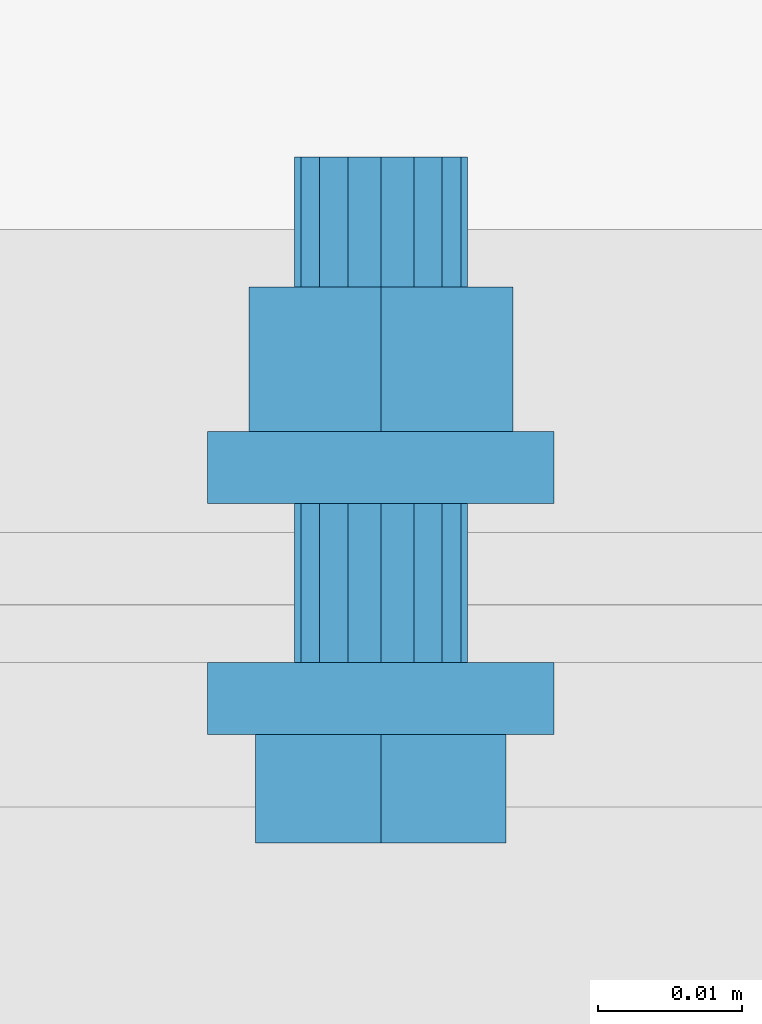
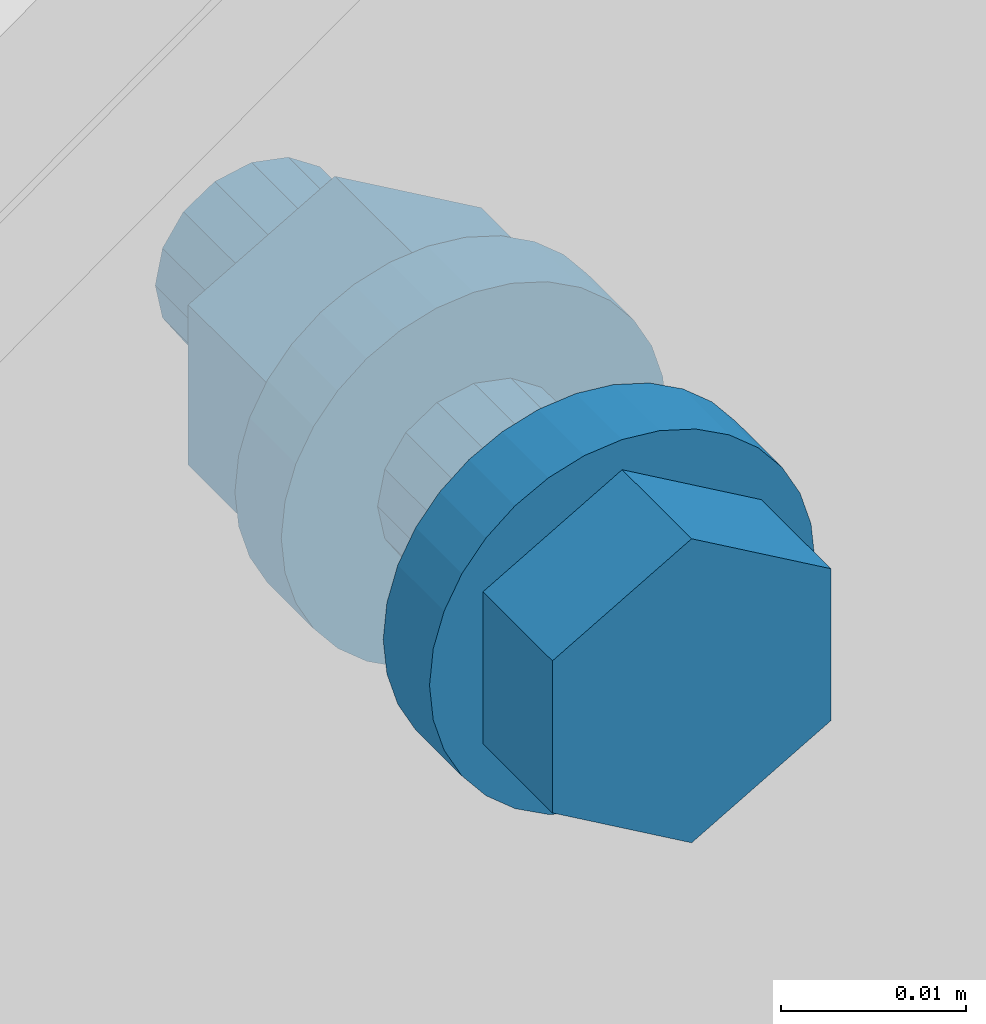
# One storey, part 40 of 116: 1 mechanical fastener.
"""IFC2X3 building model written with IfcOpenShell, lengths in millimetres."""

from ifc_helpers import new_model, entity, si_unit, converted_unit, origin_with_axes, place, context, project, spatial, faceted_brep, element, save


model = new_model("IFC2X3")

# Units and contexts
model_context = context("Model", 3, precision=1e-09, world=origin_with_axes())
ifc_project = project(units=[si_unit("LENGTHUNIT", "METRE", prefix="MILLI"), si_unit("AREAUNIT", "SQUARE_METRE"), si_unit("VOLUMEUNIT", "CUBIC_METRE"), converted_unit("PLANEANGLEUNIT", "DEGREE", entity("IfcPlaneAngleMeasure", 0.01745329), si_unit("PLANEANGLEUNIT", "RADIAN"), dimensions=[0, 0, 0, 0, 0, 0, 0])], contexts=[model_context])

# Site, building, storey
site_placement = place(None, origin_with_axes())
site = spatial("IfcSite", under=ifc_project, at=site_placement, Name="Site", CompositionType="ELEMENT")
building_placement = place(site_placement, origin_with_axes())
building = spatial("IfcBuilding", under=site, at=building_placement, Name="Struktur 1", CompositionType="ELEMENT")
storey_placement = place(building_placement, origin_with_axes())
storey = spatial("IfcBuildingStorey", under=building, at=storey_placement, Name="Default Storey", CompositionType="ELEMENT", Elevation=0.0)

# Mechanical fastener
mechanical_fastener_placement = place(None, origin_with_axes())
element("IfcMechanicalFastener", 1, at=mechanical_fastener_placement, inside=storey, ObjectType="-", NominalDiameter=12.0, NominalLength=40.0, context=model_context, shape_type="Brep", body=[
    faceted_brep([(58705.049134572, 9069.858883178, -378.0), (58705.049134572, 9072.358883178, -378.0), (58705.279711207, 9072.358883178, -380.341083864), (58705.279711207, 9069.858883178, -380.341083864), (58705.962580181, 9072.358883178, -382.592201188), (58705.962580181, 9069.858883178, -382.592201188), (58707.071499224, 9072.358883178, -384.666842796), (58707.071499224, 9069.858883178, -384.666842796), (58708.563853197, 9072.358883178, -386.485281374), (58708.563853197, 9069.858883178, -386.485281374), (58710.382291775, 9072.358883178, -387.977635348), (58710.382291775, 9069.858883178, -387.977635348), (58712.456933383, 9072.358883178, -389.08655439), (58712.456933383, 9069.858883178, -389.08655439), (58714.708050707, 9072.358883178, -389.769423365), (58714.708050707, 9069.858883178, -389.769423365), (58717.049134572, 9072.358883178, -390.0), (58717.049134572, 9069.858883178, -390.0), (58719.390218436, 9072.358883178, -389.769423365), (58719.390218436, 9069.858883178, -389.769423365), (58721.64133576, 9072.358883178, -389.08655439), (58721.64133576, 9069.858883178, -389.08655439), (58723.715977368, 9072.358883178, -387.977635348), (58723.715977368, 9069.858883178, -387.977635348), (58725.534415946, 9072.358883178, -386.485281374), (58725.534415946, 9069.858883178, -386.485281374), (58727.026769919, 9072.358883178, -384.666842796), (58727.026769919, 9069.858883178, -384.666842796), (58728.135688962, 9072.358883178, -382.592201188), (58728.135688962, 9069.858883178, -382.592201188), (58728.818557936, 9072.358883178, -380.341083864), (58728.818557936, 9069.858883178, -380.341083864), (58729.049134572, 9072.358883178, -378.0), (58729.049134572, 9069.858883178, -378.0), (58728.818557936, 9072.358883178, -375.658916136), (58728.818557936, 9069.858883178, -375.658916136), (58728.135688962, 9072.358883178, -373.407798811), (58728.135688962, 9069.858883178, -373.407798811), (58727.026769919, 9072.358883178, -371.333157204), (58727.026769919, 9069.858883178, -371.333157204), (58725.534415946, 9072.358883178, -369.514718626), (58725.534415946, 9069.858883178, -369.514718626), (58723.715977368, 9072.358883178, -368.022364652), (58723.715977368, 9069.858883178, -368.022364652), (58721.64133576, 9072.358883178, -366.91344561), (58721.64133576, 9069.858883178, -366.91344561), (58719.390218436, 9072.358883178, -366.230576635), (58719.390218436, 9069.858883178, -366.230576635), (58717.049134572, 9072.358883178, -366.0), (58717.049134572, 9069.858883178, -366.0), (58714.708050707, 9072.358883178, -366.230576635), (58714.708050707, 9069.858883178, -366.230576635), (58712.456933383, 9072.358883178, -366.91344561), (58712.456933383, 9069.858883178, -366.91344561), (58710.382291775, 9072.358883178, -368.022364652), (58710.382291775, 9069.858883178, -368.022364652), (58708.563853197, 9072.358883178, -369.514718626), (58708.563853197, 9069.858883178, -369.514718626), (58707.071499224, 9072.358883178, -371.333157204), (58707.071499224, 9069.858883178, -371.333157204), (58705.962580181, 9072.358883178, -373.407798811), (58705.962580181, 9069.858883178, -373.407798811), (58705.279711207, 9072.358883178, -375.658916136), (58705.279711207, 9069.858883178, -375.658916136)], [[[0, 1, 2, 3]], [[3, 2, 4, 5]], [[5, 4, 6, 7]], [[7, 6, 8, 9]], [[9, 8, 10, 11]], [[11, 10, 12, 13]], [[13, 12, 14, 15]], [[15, 14, 16, 17]], [[17, 16, 18, 19]], [[19, 18, 20, 21]], [[21, 20, 22, 23]], [[23, 22, 24, 25]], [[25, 24, 26, 27]], [[27, 26, 28, 29]], [[29, 28, 30, 31]], [[31, 30, 32, 33]], [[33, 32, 34, 35]], [[35, 34, 36, 37]], [[37, 36, 38, 39]], [[39, 38, 40, 41]], [[41, 40, 42, 43]], [[43, 42, 44, 45]], [[45, 44, 46, 47]], [[47, 46, 48, 49]], [[49, 48, 50, 51]], [[51, 50, 52, 53]], [[53, 52, 54, 55]], [[55, 54, 56, 57]], [[57, 56, 58, 59]], [[59, 58, 60, 61]], [[61, 60, 62, 63]], [[63, 62, 1, 0]], [[0, 3, 5, 7, 9, 11, 13, 15, 17, 19, 21, 23, 25, 27, 29, 31, 33, 35, 37, 39, 41, 43, 45, 47, 49, 51, 53, 55, 57, 59, 61, 63]], [[1, 62, 60, 58, 56, 54, 52, 50, 48, 46, 44, 42, 40, 38, 36, 34, 32, 30, 28, 26, 24, 22, 20, 18, 16, 14, 12, 10, 8, 6, 4, 2]]]),
    faceted_brep([(58705.049134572, 9067.358883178, -378.0), (58705.049134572, 9069.858883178, -378.0), (58705.279711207, 9069.858883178, -380.341083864), (58705.279711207, 9067.358883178, -380.341083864), (58705.962580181, 9069.858883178, -382.592201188), (58705.962580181, 9067.358883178, -382.592201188), (58707.071499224, 9069.858883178, -384.666842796), (58707.071499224, 9067.358883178, -384.666842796), (58708.563853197, 9069.858883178, -386.485281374), (58708.563853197, 9067.358883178, -386.485281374), (58710.382291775, 9069.858883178, -387.977635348), (58710.382291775, 9067.358883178, -387.977635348), (58712.456933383, 9069.858883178, -389.08655439), (58712.456933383, 9067.358883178, -389.08655439), (58714.708050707, 9069.858883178, -389.769423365), (58714.708050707, 9067.358883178, -389.769423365), (58717.049134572, 9069.858883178, -390.0), (58717.049134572, 9067.358883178, -390.0), (58719.390218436, 9069.858883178, -389.769423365), (58719.390218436, 9067.358883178, -389.769423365), (58721.64133576, 9069.858883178, -389.08655439), (58721.64133576, 9067.358883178, -389.08655439), (58723.715977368, 9069.858883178, -387.977635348), (58723.715977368, 9067.358883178, -387.977635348), (58725.534415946, 9069.858883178, -386.485281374), (58725.534415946, 9067.358883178, -386.485281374), (58727.026769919, 9069.858883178, -384.666842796), (58727.026769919, 9067.358883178, -384.666842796), (58728.135688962, 9069.858883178, -382.592201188), (58728.135688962, 9067.358883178, -382.592201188), (58728.818557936, 9069.858883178, -380.341083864), (58728.818557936, 9067.358883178, -380.341083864), (58729.049134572, 9069.858883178, -378.0), (58729.049134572, 9067.358883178, -378.0), (58728.818557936, 9069.858883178, -375.658916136), (58728.818557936, 9067.358883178, -375.658916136), (58728.135688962, 9069.858883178, -373.407798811), (58728.135688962, 9067.358883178, -373.407798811), (58727.026769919, 9069.858883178, -371.333157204), (58727.026769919, 9067.358883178, -371.333157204), (58725.534415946, 9069.858883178, -369.514718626), (58725.534415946, 9067.358883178, -369.514718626), (58723.715977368, 9069.858883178, -368.022364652), (58723.715977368, 9067.358883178, -368.022364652), (58721.64133576, 9069.858883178, -366.91344561), (58721.64133576, 9067.358883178, -366.91344561), (58719.390218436, 9069.858883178, -366.230576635), (58719.390218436, 9067.358883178, -366.230576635), (58717.049134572, 9069.858883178, -366.0), (58717.049134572, 9067.358883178, -366.0), (58714.708050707, 9069.858883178, -366.230576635), (58714.708050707, 9067.358883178, -366.230576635), (58712.456933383, 9069.858883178, -366.91344561), (58712.456933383, 9067.358883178, -366.91344561), (58710.382291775, 9069.858883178, -368.022364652), (58710.382291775, 9067.358883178, -368.022364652), (58708.563853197, 9069.858883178, -369.514718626), (58708.563853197, 9067.358883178, -369.514718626), (58707.071499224, 9069.858883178, -371.333157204), (58707.071499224, 9067.358883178, -371.333157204), (58705.962580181, 9069.858883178, -373.407798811), (58705.962580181, 9067.358883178, -373.407798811), (58705.279711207, 9069.858883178, -375.658916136), (58705.279711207, 9067.358883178, -375.658916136)], [[[0, 1, 2, 3]], [[3, 2, 4, 5]], [[5, 4, 6, 7]], [[7, 6, 8, 9]], [[9, 8, 10, 11]], [[11, 10, 12, 13]], [[13, 12, 14, 15]], [[15, 14, 16, 17]], [[17, 16, 18, 19]], [[19, 18, 20, 21]], [[21, 20, 22, 23]], [[23, 22, 24, 25]], [[25, 24, 26, 27]], [[27, 26, 28, 29]], [[29, 28, 30, 31]], [[31, 30, 32, 33]], [[33, 32, 34, 35]], [[35, 34, 36, 37]], [[37, 36, 38, 39]], [[39, 38, 40, 41]], [[41, 40, 42, 43]], [[43, 42, 44, 45]], [[45, 44, 46, 47]], [[47, 46, 48, 49]], [[49, 48, 50, 51]], [[51, 50, 52, 53]], [[53, 52, 54, 55]], [[55, 54, 56, 57]], [[57, 56, 58, 59]], [[59, 58, 60, 61]], [[61, 60, 62, 63]], [[63, 62, 1, 0]], [[0, 3, 5, 7, 9, 11, 13, 15, 17, 19, 21, 23, 25, 27, 29, 31, 33, 35, 37, 39, 41, 43, 45, 47, 49, 51, 53, 55, 57, 59, 61, 63]], [[1, 62, 60, 58, 56, 54, 52, 50, 48, 46, 44, 42, 40, 38, 36, 34, 32, 30, 28, 26, 24, 22, 20, 18, 16, 14, 12, 10, 8, 6, 4, 2]]]),
    faceted_brep([(58725.722378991, 9067.358883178, -383.0075), (58725.722378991, 9059.858883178, -383.0075), (58717.049134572, 9059.858883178, -388.015), (58717.049134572, 9067.358883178, -388.015), (58708.375890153, 9059.858883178, -383.0075), (58708.375890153, 9067.358883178, -383.0075), (58708.375890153, 9059.858883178, -372.9925), (58708.375890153, 9067.358883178, -372.9925), (58717.049134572, 9059.858883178, -367.985), (58717.049134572, 9067.358883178, -367.985), (58725.722378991, 9059.858883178, -372.9925), (58725.722378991, 9067.358883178, -372.9925)], [[[0, 1, 2, 3]], [[3, 2, 4, 5]], [[5, 4, 6, 7]], [[7, 6, 8, 9]], [[9, 8, 10, 11]], [[11, 10, 1, 0]], [[4, 2, 1, 10, 8, 6]], [[0, 3, 5, 7, 9, 11]]]),
    faceted_brep([(58711.049134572, 9072.358883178, -378.0), (58711.049134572, 9083.358883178, -378.0), (58711.505857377, 9083.358883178, -380.296100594), (58711.505857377, 9072.358883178, -380.296100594), (58712.806493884, 9083.358883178, -382.242640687), (58712.806493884, 9072.358883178, -382.242640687), (58714.753033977, 9083.358883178, -383.543277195), (58714.753033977, 9072.358883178, -383.543277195), (58717.049134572, 9083.358883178, -384.0), (58717.049134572, 9072.358883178, -384.0), (58719.345235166, 9083.358883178, -383.543277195), (58719.345235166, 9072.358883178, -383.543277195), (58721.291775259, 9083.358883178, -382.242640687), (58721.291775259, 9072.358883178, -382.242640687), (58722.592411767, 9083.358883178, -380.296100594), (58722.592411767, 9072.358883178, -380.296100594), (58723.049134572, 9083.358883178, -378.0), (58723.049134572, 9072.358883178, -378.0), (58722.592411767, 9083.358883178, -375.703899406), (58722.592411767, 9072.358883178, -375.703899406), (58721.291775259, 9083.358883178, -373.757359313), (58721.291775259, 9072.358883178, -373.757359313), (58719.345235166, 9083.358883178, -372.456722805), (58719.345235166, 9072.358883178, -372.456722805), (58717.049134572, 9083.358883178, -372.0), (58717.049134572, 9072.358883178, -372.0), (58714.753033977, 9083.358883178, -372.456722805), (58714.753033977, 9072.358883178, -372.456722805), (58712.806493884, 9083.358883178, -373.757359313), (58712.806493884, 9072.358883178, -373.757359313), (58711.505857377, 9083.358883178, -375.703899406), (58711.505857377, 9072.358883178, -375.703899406)], [[[0, 1, 2, 3]], [[3, 2, 4, 5]], [[5, 4, 6, 7]], [[7, 6, 8, 9]], [[9, 8, 10, 11]], [[11, 10, 12, 13]], [[13, 12, 14, 15]], [[15, 14, 16, 17]], [[17, 16, 18, 19]], [[19, 18, 20, 21]], [[21, 20, 22, 23]], [[23, 22, 24, 25]], [[25, 24, 26, 27]], [[27, 26, 28, 29]], [[29, 28, 30, 31]], [[31, 30, 1, 0]], [[0, 3, 5, 7, 9, 11, 13, 15, 17, 19, 21, 23, 25, 27, 29, 31]], [[1, 30, 28, 26, 24, 22, 20, 18, 16, 14, 12, 10, 8, 6, 4, 2]]]),
    faceted_brep([(58705.049134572, 9083.358883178, -378.0), (58705.049134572, 9085.858883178, -378.0), (58705.279711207, 9085.858883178, -380.341083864), (58705.279711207, 9083.358883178, -380.341083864), (58705.962580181, 9085.858883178, -382.592201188), (58705.962580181, 9083.358883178, -382.592201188), (58707.071499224, 9085.858883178, -384.666842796), (58707.071499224, 9083.358883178, -384.666842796), (58708.563853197, 9085.858883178, -386.485281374), (58708.563853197, 9083.358883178, -386.485281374), (58710.382291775, 9085.858883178, -387.977635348), (58710.382291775, 9083.358883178, -387.977635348), (58712.456933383, 9085.858883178, -389.08655439), (58712.456933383, 9083.358883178, -389.08655439), (58714.708050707, 9085.858883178, -389.769423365), (58714.708050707, 9083.358883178, -389.769423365), (58717.049134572, 9085.858883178, -390.0), (58717.049134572, 9083.358883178, -390.0), (58719.390218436, 9085.858883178, -389.769423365), (58719.390218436, 9083.358883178, -389.769423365), (58721.64133576, 9085.858883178, -389.08655439), (58721.64133576, 9083.358883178, -389.08655439), (58723.715977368, 9085.858883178, -387.977635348), (58723.715977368, 9083.358883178, -387.977635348), (58725.534415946, 9085.858883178, -386.485281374), (58725.534415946, 9083.358883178, -386.485281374), (58727.026769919, 9085.858883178, -384.666842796), (58727.026769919, 9083.358883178, -384.666842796), (58728.135688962, 9085.858883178, -382.592201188), (58728.135688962, 9083.358883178, -382.592201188), (58728.818557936, 9085.858883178, -380.341083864), (58728.818557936, 9083.358883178, -380.341083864), (58729.049134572, 9085.858883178, -378.0), (58729.049134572, 9083.358883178, -378.0), (58728.818557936, 9085.858883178, -375.658916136), (58728.818557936, 9083.358883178, -375.658916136), (58728.135688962, 9085.858883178, -373.407798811), (58728.135688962, 9083.358883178, -373.407798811), (58727.026769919, 9085.858883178, -371.333157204), (58727.026769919, 9083.358883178, -371.333157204), (58725.534415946, 9085.858883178, -369.514718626), (58725.534415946, 9083.358883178, -369.514718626), (58723.715977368, 9085.858883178, -368.022364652), (58723.715977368, 9083.358883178, -368.022364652), (58721.64133576, 9085.858883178, -366.91344561), (58721.64133576, 9083.358883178, -366.91344561), (58719.390218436, 9085.858883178, -366.230576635), (58719.390218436, 9083.358883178, -366.230576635), (58717.049134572, 9085.858883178, -366.0), (58717.049134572, 9083.358883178, -366.0), (58714.708050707, 9085.858883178, -366.230576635), (58714.708050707, 9083.358883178, -366.230576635), (58712.456933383, 9085.858883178, -366.91344561), (58712.456933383, 9083.358883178, -366.91344561), (58710.382291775, 9085.858883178, -368.022364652), (58710.382291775, 9083.358883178, -368.022364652), (58708.563853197, 9085.858883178, -369.514718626), (58708.563853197, 9083.358883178, -369.514718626), (58707.071499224, 9085.858883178, -371.333157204), (58707.071499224, 9083.358883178, -371.333157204), (58705.962580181, 9085.858883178, -373.407798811), (58705.962580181, 9083.358883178, -373.407798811), (58705.279711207, 9085.858883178, -375.658916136), (58705.279711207, 9083.358883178, -375.658916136)], [[[0, 1, 2, 3]], [[3, 2, 4, 5]], [[5, 4, 6, 7]], [[7, 6, 8, 9]], [[9, 8, 10, 11]], [[11, 10, 12, 13]], [[13, 12, 14, 15]], [[15, 14, 16, 17]], [[17, 16, 18, 19]], [[19, 18, 20, 21]], [[21, 20, 22, 23]], [[23, 22, 24, 25]], [[25, 24, 26, 27]], [[27, 26, 28, 29]], [[29, 28, 30, 31]], [[31, 30, 32, 33]], [[33, 32, 34, 35]], [[35, 34, 36, 37]], [[37, 36, 38, 39]], [[39, 38, 40, 41]], [[41, 40, 42, 43]], [[43, 42, 44, 45]], [[45, 44, 46, 47]], [[47, 46, 48, 49]], [[49, 48, 50, 51]], [[51, 50, 52, 53]], [[53, 52, 54, 55]], [[55, 54, 56, 57]], [[57, 56, 58, 59]], [[59, 58, 60, 61]], [[61, 60, 62, 63]], [[63, 62, 1, 0]], [[0, 3, 5, 7, 9, 11, 13, 15, 17, 19, 21, 23, 25, 27, 29, 31, 33, 35, 37, 39, 41, 43, 45, 47, 49, 51, 53, 55, 57, 59, 61, 63]], [[1, 62, 60, 58, 56, 54, 52, 50, 48, 46, 44, 42, 40, 38, 36, 34, 32, 30, 28, 26, 24, 22, 20, 18, 16, 14, 12, 10, 8, 6, 4, 2]]]),
    faceted_brep([(58705.049134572, 9085.858883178, -378.0), (58705.049134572, 9088.358883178, -378.0), (58705.279711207, 9088.358883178, -380.341083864), (58705.279711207, 9085.858883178, -380.341083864), (58705.962580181, 9088.358883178, -382.592201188), (58705.962580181, 9085.858883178, -382.592201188), (58707.071499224, 9088.358883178, -384.666842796), (58707.071499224, 9085.858883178, -384.666842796), (58708.563853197, 9088.358883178, -386.485281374), (58708.563853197, 9085.858883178, -386.485281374), (58710.382291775, 9088.358883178, -387.977635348), (58710.382291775, 9085.858883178, -387.977635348), (58712.456933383, 9088.358883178, -389.08655439), (58712.456933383, 9085.858883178, -389.08655439), (58714.708050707, 9088.358883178, -389.769423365), (58714.708050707, 9085.858883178, -389.769423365), (58717.049134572, 9088.358883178, -390.0), (58717.049134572, 9085.858883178, -390.0), (58719.390218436, 9088.358883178, -389.769423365), (58719.390218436, 9085.858883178, -389.769423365), (58721.64133576, 9088.358883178, -389.08655439), (58721.64133576, 9085.858883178, -389.08655439), (58723.715977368, 9088.358883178, -387.977635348), (58723.715977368, 9085.858883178, -387.977635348), (58725.534415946, 9088.358883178, -386.485281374), (58725.534415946, 9085.858883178, -386.485281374), (58727.026769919, 9088.358883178, -384.666842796), (58727.026769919, 9085.858883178, -384.666842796), (58728.135688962, 9088.358883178, -382.592201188), (58728.135688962, 9085.858883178, -382.592201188), (58728.818557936, 9088.358883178, -380.341083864), (58728.818557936, 9085.858883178, -380.341083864), (58729.049134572, 9088.358883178, -378.0), (58729.049134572, 9085.858883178, -378.0), (58728.818557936, 9088.358883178, -375.658916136), (58728.818557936, 9085.858883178, -375.658916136), (58728.135688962, 9088.358883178, -373.407798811), (58728.135688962, 9085.858883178, -373.407798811), (58727.026769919, 9088.358883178, -371.333157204), (58727.026769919, 9085.858883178, -371.333157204), (58725.534415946, 9088.358883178, -369.514718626), (58725.534415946, 9085.858883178, -369.514718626), (58723.715977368, 9088.358883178, -368.022364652), (58723.715977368, 9085.858883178, -368.022364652), (58721.64133576, 9088.358883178, -366.91344561), (58721.64133576, 9085.858883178, -366.91344561), (58719.390218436, 9088.358883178, -366.230576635), (58719.390218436, 9085.858883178, -366.230576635), (58717.049134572, 9088.358883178, -366.0), (58717.049134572, 9085.858883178, -366.0), (58714.708050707, 9088.358883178, -366.230576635), (58714.708050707, 9085.858883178, -366.230576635), (58712.456933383, 9088.358883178, -366.91344561), (58712.456933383, 9085.858883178, -366.91344561), (58710.382291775, 9088.358883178, -368.022364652), (58710.382291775, 9085.858883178, -368.022364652), (58708.563853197, 9088.358883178, -369.514718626), (58708.563853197, 9085.858883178, -369.514718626), (58707.071499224, 9088.358883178, -371.333157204), (58707.071499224, 9085.858883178, -371.333157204), (58705.962580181, 9088.358883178, -373.407798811), (58705.962580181, 9085.858883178, -373.407798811), (58705.279711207, 9088.358883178, -375.658916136), (58705.279711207, 9085.858883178, -375.658916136)], [[[0, 1, 2, 3]], [[3, 2, 4, 5]], [[5, 4, 6, 7]], [[7, 6, 8, 9]], [[9, 8, 10, 11]], [[11, 10, 12, 13]], [[13, 12, 14, 15]], [[15, 14, 16, 17]], [[17, 16, 18, 19]], [[19, 18, 20, 21]], [[21, 20, 22, 23]], [[23, 22, 24, 25]], [[25, 24, 26, 27]], [[27, 26, 28, 29]], [[29, 28, 30, 31]], [[31, 30, 32, 33]], [[33, 32, 34, 35]], [[35, 34, 36, 37]], [[37, 36, 38, 39]], [[39, 38, 40, 41]], [[41, 40, 42, 43]], [[43, 42, 44, 45]], [[45, 44, 46, 47]], [[47, 46, 48, 49]], [[49, 48, 50, 51]], [[51, 50, 52, 53]], [[53, 52, 54, 55]], [[55, 54, 56, 57]], [[57, 56, 58, 59]], [[59, 58, 60, 61]], [[61, 60, 62, 63]], [[63, 62, 1, 0]], [[0, 3, 5, 7, 9, 11, 13, 15, 17, 19, 21, 23, 25, 27, 29, 31, 33, 35, 37, 39, 41, 43, 45, 47, 49, 51, 53, 55, 57, 59, 61, 63]], [[1, 62, 60, 58, 56, 54, 52, 50, 48, 46, 44, 42, 40, 38, 36, 34, 32, 30, 28, 26, 24, 22, 20, 18, 16, 14, 12, 10, 8, 6, 4, 2]]]),
    faceted_brep([(58726.185702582, 9098.358883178, -383.275), (58726.185702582, 9088.358883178, -383.275), (58717.049134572, 9088.358883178, -388.55), (58717.049134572, 9098.358883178, -388.55), (58707.912566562, 9088.358883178, -383.275), (58707.912566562, 9098.358883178, -383.275), (58707.912566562, 9088.358883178, -372.725), (58707.912566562, 9098.358883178, -372.725), (58717.049134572, 9088.358883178, -367.45), (58717.049134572, 9098.358883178, -367.45), (58726.185702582, 9088.358883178, -372.725), (58726.185702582, 9098.358883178, -372.725)], [[[0, 1, 2, 3]], [[3, 2, 4, 5]], [[5, 4, 6, 7]], [[7, 6, 8, 9]], [[9, 8, 10, 11]], [[11, 10, 1, 0]], [[4, 2, 1, 10, 8, 6]], [[0, 3, 5, 7, 9, 11]]]),
    faceted_brep([(58711.049134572, 9098.358883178, -378.0), (58711.049134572, 9107.358883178, -378.0), (58711.505857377, 9107.358883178, -380.296100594), (58711.505857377, 9098.358883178, -380.296100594), (58712.806493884, 9107.358883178, -382.242640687), (58712.806493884, 9098.358883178, -382.242640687), (58714.753033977, 9107.358883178, -383.543277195), (58714.753033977, 9098.358883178, -383.543277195), (58717.049134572, 9107.358883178, -384.0), (58717.049134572, 9098.358883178, -384.0), (58719.345235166, 9107.358883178, -383.543277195), (58719.345235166, 9098.358883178, -383.543277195), (58721.291775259, 9107.358883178, -382.242640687), (58721.291775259, 9098.358883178, -382.242640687), (58722.592411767, 9107.358883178, -380.296100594), (58722.592411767, 9098.358883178, -380.296100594), (58723.049134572, 9107.358883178, -378.0), (58723.049134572, 9098.358883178, -378.0), (58722.592411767, 9107.358883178, -375.703899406), (58722.592411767, 9098.358883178, -375.703899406), (58721.291775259, 9107.358883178, -373.757359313), (58721.291775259, 9098.358883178, -373.757359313), (58719.345235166, 9107.358883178, -372.456722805), (58719.345235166, 9098.358883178, -372.456722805), (58717.049134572, 9107.358883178, -372.0), (58717.049134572, 9098.358883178, -372.0), (58714.753033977, 9107.358883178, -372.456722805), (58714.753033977, 9098.358883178, -372.456722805), (58712.806493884, 9107.358883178, -373.757359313), (58712.806493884, 9098.358883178, -373.757359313), (58711.505857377, 9107.358883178, -375.703899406), (58711.505857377, 9098.358883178, -375.703899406)], [[[0, 1, 2, 3]], [[3, 2, 4, 5]], [[5, 4, 6, 7]], [[7, 6, 8, 9]], [[9, 8, 10, 11]], [[11, 10, 12, 13]], [[13, 12, 14, 15]], [[15, 14, 16, 17]], [[17, 16, 18, 19]], [[19, 18, 20, 21]], [[21, 20, 22, 23]], [[23, 22, 24, 25]], [[25, 24, 26, 27]], [[27, 26, 28, 29]], [[29, 28, 30, 31]], [[31, 30, 1, 0]], [[0, 3, 5, 7, 9, 11, 13, 15, 17, 19, 21, 23, 25, 27, 29, 31]], [[1, 30, 28, 26, 24, 22, 20, 18, 16, 14, 12, 10, 8, 6, 4, 2]]]),
])

save(model, "model.ifc")
